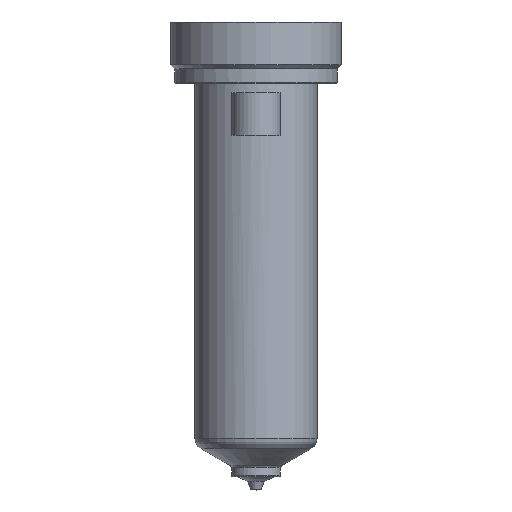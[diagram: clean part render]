
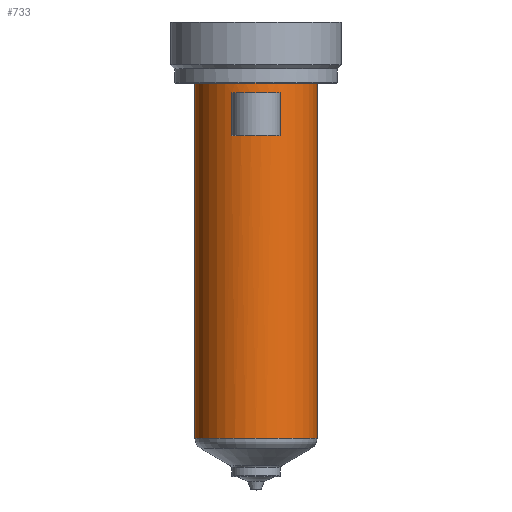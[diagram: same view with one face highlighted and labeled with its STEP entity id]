
A CAD part, top view. The second image highlights one B-rep face of the part: STEP entity #733.
In plain terms, the highlighted cylindrical face has radius 15 mm (diameter 30 mm), a partial arc.
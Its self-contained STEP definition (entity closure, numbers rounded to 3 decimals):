
#161=DIRECTION('',(0.,-1.,0.));
#162=VECTOR('',#161,87.283);
#163=CARTESIAN_POINT('',(15.,0.,0.));
#164=LINE('',#163,#162);
#165=CARTESIAN_POINT('',(0.,-87.283,0.));
#166=DIRECTION('',(0.,1.,0.));
#167=DIRECTION('',(-1.,0.,0.));
#168=AXIS2_PLACEMENT_3D('',#165,#166,#167);
#170=DIRECTION('',(0.,1.,0.));
#171=VECTOR('',#170,87.283);
#172=CARTESIAN_POINT('',(-15.,-87.283,0.));
#173=LINE('',#172,#171);
#174=CARTESIAN_POINT('',(0.,0.,0.));
#175=DIRECTION('',(0.,1.,0.));
#176=DIRECTION('',(-1.,0.,0.));
#177=AXIS2_PLACEMENT_3D('',#174,#175,#176);
#323=DIRECTION('',(0.,-1.,0.));
#324=VECTOR('',#323,10.5);
#325=CARTESIAN_POINT('',(-6.,-2.5,13.748));
#326=LINE('',#325,#324);
#331=CARTESIAN_POINT('',(0.,-13.,0.));
#332=DIRECTION('',(0.,1.,0.));
#333=DIRECTION('',(-0.4,0.,0.917));
#334=AXIS2_PLACEMENT_3D('',#331,#332,#333);
#366=CARTESIAN_POINT('',(0.,-2.5,0.));
#367=DIRECTION('',(0.,-1.,0.));
#368=DIRECTION('',(0.4,0.,0.917));
#369=AXIS2_PLACEMENT_3D('',#366,#367,#368);
#371=DIRECTION('',(0.,-1.,0.));
#372=VECTOR('',#371,10.5);
#373=CARTESIAN_POINT('',(6.,-2.5,13.748));
#374=LINE('',#373,#372);
#458=CARTESIAN_POINT('',(-15.,0.,0.));
#459=CARTESIAN_POINT('',(15.,0.,0.));
#460=VERTEX_POINT('',#458);
#461=VERTEX_POINT('',#459);
#470=CARTESIAN_POINT('',(6.,-2.5,13.748));
#471=VERTEX_POINT('',#470);
#472=CARTESIAN_POINT('',(-6.,-2.5,13.748));
#473=VERTEX_POINT('',#472);
#482=CARTESIAN_POINT('',(15.,-87.283,0.));
#483=VERTEX_POINT('',#482);
#492=CARTESIAN_POINT('',(-15.,-87.283,0.));
#493=VERTEX_POINT('',#492);
#510=CARTESIAN_POINT('',(-6.,-13.,13.748));
#511=CARTESIAN_POINT('',(6.,-13.,13.748));
#512=VERTEX_POINT('',#510);
#513=VERTEX_POINT('',#511);
#711=CARTESIAN_POINT('',(0.,16.4,0.));
#712=DIRECTION('',(0.,-1.,0.));
#713=DIRECTION('',(-1.,0.,0.));
#714=AXIS2_PLACEMENT_3D('',#711,#712,#713);
#715=CYLINDRICAL_SURFACE('',#714,15.);
#716=ORIENTED_EDGE('',*,*,#705,.T.);
#718=ORIENTED_EDGE('',*,*,#717,.F.);
#719=ORIENTED_EDGE('',*,*,#701,.T.);
#720=ORIENTED_EDGE('',*,*,#691,.T.);
#721=EDGE_LOOP('',(#716,#718,#719,#720));
#722=FACE_OUTER_BOUND('',#721,.F.);
#724=ORIENTED_EDGE('',*,*,#723,.T.);
#726=ORIENTED_EDGE('',*,*,#725,.T.);
#728=ORIENTED_EDGE('',*,*,#727,.F.);
#730=ORIENTED_EDGE('',*,*,#729,.T.);
#731=EDGE_LOOP('',(#724,#726,#728,#730));
#732=FACE_BOUND('',#731,.F.);
#733=ADVANCED_FACE('',(#722,#732),#715,.T.);
#169=CIRCLE('',#168,15.);
#178=CIRCLE('',#177,15.);
#335=CIRCLE('',#334,15.);
#370=CIRCLE('',#369,15.);
#691=EDGE_CURVE('',#460,#461,#178,.T.);
#701=EDGE_CURVE('',#493,#460,#173,.T.);
#705=EDGE_CURVE('',#461,#483,#164,.T.);
#717=EDGE_CURVE('',#493,#483,#169,.T.);
#723=EDGE_CURVE('',#473,#512,#326,.T.);
#725=EDGE_CURVE('',#512,#513,#335,.T.);
#727=EDGE_CURVE('',#471,#513,#374,.T.);
#729=EDGE_CURVE('',#471,#473,#370,.T.);
